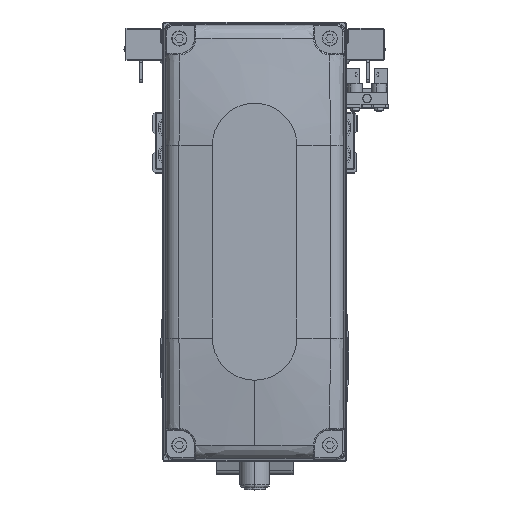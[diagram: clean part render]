
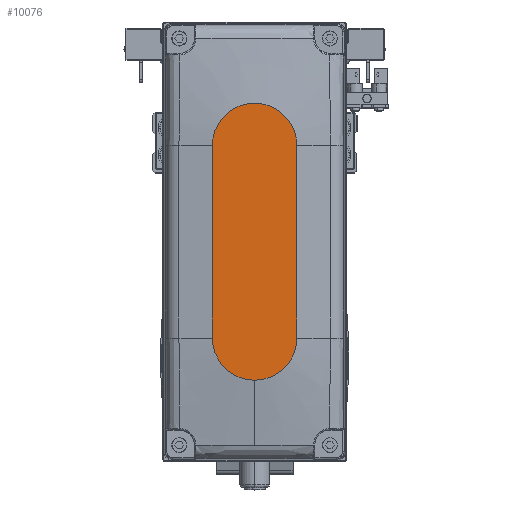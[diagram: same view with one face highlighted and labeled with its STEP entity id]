
A CAD part, top view. The second image highlights one B-rep face of the part: STEP entity #10076.
In plain terms, the highlighted planar face has unit normal (0, 0, 1).
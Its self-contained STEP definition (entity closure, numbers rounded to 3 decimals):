
#3424 = VERTEX_POINT ( 'NONE', #7687 ) ;
#4382 = DIRECTION ( 'NONE',  ( 1., 0., 0. ) ) ;
#4396 = CARTESIAN_POINT ( 'NONE',  ( 32., 0., 35. ) ) ;
#5579 = LINE ( 'NONE', #18696, #22578 ) ;
#7189 = ORIENTED_EDGE ( 'NONE', *, *, #8825, .T. ) ;
#7425 = DIRECTION ( 'NONE',  ( 1., 0., 0. ) ) ;
#7687 = CARTESIAN_POINT ( 'NONE',  ( -32., -14., 35. ) ) ;
#7765 = EDGE_CURVE ( 'NONE', #28299, #8867, #34624, .T. ) ;
#8825 = EDGE_CURVE ( 'NONE', #26041, #28299, #17787, .T. ) ;
#8867 = VERTEX_POINT ( 'NONE', #21162 ) ;
#9656 = CARTESIAN_POINT ( 'NONE',  ( 46., 0., 35. ) ) ;
#10076 = ADVANCED_FACE ( 'NONE', ( #40129 ), #10651, .T. ) ;
#10242 = ORIENTED_EDGE ( 'NONE', *, *, #32682, .T. ) ;
#10651 = PLANE ( 'NONE',  #30763 ) ;
#11683 = CARTESIAN_POINT ( 'NONE',  ( 32., 0., 35. ) ) ;
#12853 = VECTOR ( 'NONE', #39260, 1000. ) ;
#13023 = LINE ( 'NONE', #26136, #12853 ) ;
#16089 = AXIS2_PLACEMENT_3D ( 'NONE', #11683, #24795, #37917 ) ;
#17154 = VERTEX_POINT ( 'NONE', #42373 ) ;
#17519 = DIRECTION ( 'NONE',  ( 0., 0., 1. ) ) ;
#17787 = CIRCLE ( 'NONE', #41844, 14. ) ;
#18696 = CARTESIAN_POINT ( 'NONE',  ( -32., 14., 35. ) ) ;
#20725 = CARTESIAN_POINT ( 'NONE',  ( -32., 0., 35. ) ) ;
#21162 = CARTESIAN_POINT ( 'NONE',  ( 32., 14., 35. ) ) ;
#22483 = ORIENTED_EDGE ( 'NONE', *, *, #24395, .T. ) ;
#22578 = VECTOR ( 'NONE', #31824, 1000. ) ;
#23765 = CARTESIAN_POINT ( 'NONE',  ( 0., 0., 35. ) ) ;
#24395 = EDGE_CURVE ( 'NONE', #8867, #17154, #5579, .T. ) ;
#24795 = DIRECTION ( 'NONE',  ( 0., 0., 1. ) ) ;
#26041 = VERTEX_POINT ( 'NONE', #34781 ) ;
#26136 = CARTESIAN_POINT ( 'NONE',  ( -32., -14., 35. ) ) ;
#28299 = VERTEX_POINT ( 'NONE', #9656 ) ;
#30640 = DIRECTION ( 'NONE',  ( 1., 0., 0. ) ) ;
#30701 = EDGE_CURVE ( 'NONE', #17154, #3424, #36859, .T. ) ;
#30763 = AXIS2_PLACEMENT_3D ( 'NONE', #23765, #36897, #7425 ) ;
#30794 = EDGE_LOOP ( 'NONE', ( #22483, #34522, #10242, #7189, #40805 ) ) ;
#31824 = DIRECTION ( 'NONE',  ( -1., 0., 0. ) ) ;
#32682 = EDGE_CURVE ( 'NONE', #3424, #26041, #13023, .T. ) ;
#33852 = DIRECTION ( 'NONE',  ( 0., 0., 1. ) ) ;
#34522 = ORIENTED_EDGE ( 'NONE', *, *, #30701, .T. ) ;
#34624 = CIRCLE ( 'NONE', #16089, 14. ) ;
#34781 = CARTESIAN_POINT ( 'NONE',  ( 32., -14., 35. ) ) ;
#36859 = CIRCLE ( 'NONE', #42387, 14. ) ;
#36897 = DIRECTION ( 'NONE',  ( 0., 0., 1. ) ) ;
#37917 = DIRECTION ( 'NONE',  ( 1., 0., 0. ) ) ;
#39260 = DIRECTION ( 'NONE',  ( 1., 0., 0. ) ) ;
#40129 = FACE_OUTER_BOUND ( 'NONE', #30794, .T. ) ;
#40805 = ORIENTED_EDGE ( 'NONE', *, *, #7765, .T. ) ;
#41844 = AXIS2_PLACEMENT_3D ( 'NONE', #4396, #17519, #30640 ) ;
#42373 = CARTESIAN_POINT ( 'NONE',  ( -32., 14., 35. ) ) ;
#42387 = AXIS2_PLACEMENT_3D ( 'NONE', #20725, #33852, #4382 ) ;
